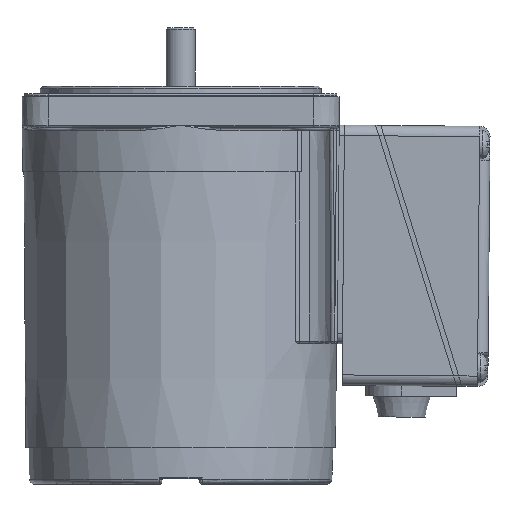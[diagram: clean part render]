
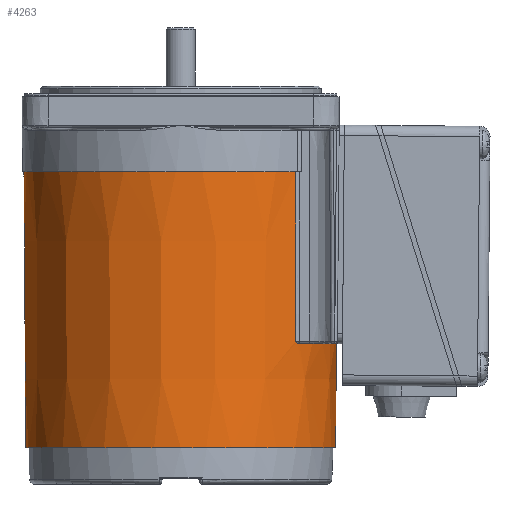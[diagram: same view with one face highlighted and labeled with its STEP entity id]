
A CAD part, left-side view. The second image highlights one B-rep face of the part: STEP entity #4263.
In plain terms, the highlighted conical face has half-angle 0.318 degrees and reference radius 30.123 mm.
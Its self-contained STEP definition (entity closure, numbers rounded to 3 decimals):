
#221 = CARTESIAN_POINT ( 'NONE',  ( -3.809, -29.707, -47.5 ) ) ;
#449 = CARTESIAN_POINT ( 'NONE',  ( 20.431, -22.08, -21.833 ) ) ;
#463 = VERTEX_POINT ( 'NONE', #5981 ) ;
#480 = DIRECTION ( 'NONE',  ( 1., 0., 0. ) ) ;
#510 = CARTESIAN_POINT ( 'NONE',  ( -20.229, -22.088, -45.5 ) ) ;
#667 = ORIENTED_EDGE ( 'NONE', *, *, #1603, .T. ) ;
#681 = B_SPLINE_CURVE_WITH_KNOTS ( 'NONE', 3,
 ( #4382, #9813, #2379, #11088, #3377, #12153, #10018, #10959, #221, #4598 ),
 .UNSPECIFIED., .F., .F.,
 ( 4, 2, 2, 2, 4 ),
 ( 0., 0.002, 0.005, 0.007, 0.009 ),
 .UNSPECIFIED. ) ;
#833 = CIRCLE ( 'NONE', #2917, 29.94 ) ;
#882 = CARTESIAN_POINT ( 'NONE',  ( 19.391, -22.812, -47.5 ) ) ;
#937 = CARTESIAN_POINT ( 'NONE',  ( -20.224, -22.088, -46.001 ) ) ;
#1064 = VERTEX_POINT ( 'NONE', #8473 ) ;
#1180 = ORIENTED_EDGE ( 'NONE', *, *, #2137, .T. ) ;
#1206 = VERTEX_POINT ( 'NONE', #2220 ) ;
#1209 = ORIENTED_EDGE ( 'NONE', *, *, #3968, .T. ) ;
#1382 = EDGE_CURVE ( 'NONE', #7631, #3356, #4838, .T. ) ;
#1434 = CARTESIAN_POINT ( 'NONE',  ( 20.28, -22.086, -39.502 ) ) ;
#1505 = CARTESIAN_POINT ( 'NONE',  ( 20.477, -22.078, -16.5 ) ) ;
#1603 = EDGE_CURVE ( 'NONE', #10968, #7631, #6484, .T. ) ;
#1658 = ORIENTED_EDGE ( 'NONE', *, *, #10895, .F. ) ;
#1666 = DIRECTION ( 'NONE',  ( -1., 0., 0. ) ) ;
#1851 = CARTESIAN_POINT ( 'NONE',  ( -19.391, -22.812, -47.5 ) ) ;
#1985 = CARTESIAN_POINT ( 'NONE',  ( -20.093, -22.2, -47.122 ) ) ;
#2137 = EDGE_CURVE ( 'NONE', #3356, #9953, #5992, .T. ) ;
#2220 = CARTESIAN_POINT ( 'NONE',  ( -29.829, 0., -67.5 ) ) ;
#2379 = CARTESIAN_POINT ( 'NONE',  ( 3.05, -29.794, -47.461 ) ) ;
#2383 = CARTESIAN_POINT ( 'NONE',  ( -20.22, -22.088, -46.502 ) ) ;
#2427 = CARTESIAN_POINT ( 'NONE',  ( 0., 0., -14.5 ) ) ;
#2561 = FACE_BOUND ( 'NONE', #3199, .T. ) ;
#2588 = DIRECTION ( 'NONE',  ( -1., 0., 0. ) ) ;
#2599 = CARTESIAN_POINT ( 'NONE',  ( 20.483, -22.078, -15.833 ) ) ;
#2744 = CARTESIAN_POINT ( 'NONE',  ( -20.251, -22.087, -42.834 ) ) ;
#2897 = CARTESIAN_POINT ( 'NONE',  ( 0., 0., -47.5 ) ) ;
#2917 = AXIS2_PLACEMENT_3D ( 'NONE', #2897, #11466, #4038 ) ;
#3033 = CARTESIAN_POINT ( 'NONE',  ( 20.216, -22.088, -47.003 ) ) ;
#3199 = EDGE_LOOP ( 'NONE', ( #1658 ) ) ;
#3356 = VERTEX_POINT ( 'NONE', #3033 ) ;
#3377 = CARTESIAN_POINT ( 'NONE',  ( 0.766, -29.941, -47.356 ) ) ;
#3505 = EDGE_CURVE ( 'NONE', #6732, #463, #681, .T. ) ;
#3661 = CARTESIAN_POINT ( 'NONE',  ( -20.494, -22.077, -14.5 ) ) ;
#3727 = ORIENTED_EDGE ( 'NONE', *, *, #13357, .T. ) ;
#3757 = AXIS2_PLACEMENT_3D ( 'NONE', #2427, #7781, #5562 ) ;
#3968 = EDGE_CURVE ( 'NONE', #5124, #1064, #9034, .T. ) ;
#4038 = DIRECTION ( 'NONE',  ( -1., 0., 0. ) ) ;
#4263 = ADVANCED_FACE ( 'NONE', ( #2561, #11418 ), #11785, .T. ) ;
#4280 = ORIENTED_EDGE ( 'NONE', *, *, #3505, .T. ) ;
#4382 = CARTESIAN_POINT ( 'NONE',  ( 4.567, -29.59, -47.5 ) ) ;
#4598 = CARTESIAN_POINT ( 'NONE',  ( -4.567, -29.59, -47.5 ) ) ;
#4665 = CARTESIAN_POINT ( 'NONE',  ( -20.297, -22.085, -37.5 ) ) ;
#4825 = CARTESIAN_POINT ( 'NONE',  ( 20.409, -22.081, -24.5 ) ) ;
#4829 = EDGE_CURVE ( 'NONE', #9953, #6732, #833, .T. ) ;
#4838 = B_SPLINE_CURVE_WITH_KNOTS ( 'NONE', 3,
 ( #12369, #12299, #2599, #1505, #13295, #449, #4825, #9175, #1434, #9437 ),
 .UNSPECIFIED., .F., .F.,
 ( 4, 3, 3, 4 ),
 ( 0., 0.002, 0.01, 0.033 ),
 .UNSPECIFIED. ) ;
#5124 = VERTEX_POINT ( 'NONE', #5842 ) ;
#5562 = DIRECTION ( 'NONE',  ( -1., 0., 0. ) ) ;
#5842 = CARTESIAN_POINT ( 'NONE',  ( -19.391, -22.812, -47.5 ) ) ;
#5858 = CARTESIAN_POINT ( 'NONE',  ( 0., 0., -67.5 ) ) ;
#5981 = CARTESIAN_POINT ( 'NONE',  ( -4.567, -29.59, -47.5 ) ) ;
#5992 = B_SPLINE_CURVE_WITH_KNOTS ( 'NONE', 3,
 ( #12871, #9476, #11680, #11889, #10690, #882 ),
 .UNSPECIFIED., .F., .F.,
 ( 4, 2, 4 ),
 ( 0., 0.001, 0.001 ),
 .UNSPECIFIED. ) ;
#6270 = EDGE_LOOP ( 'NONE', ( #13552, #1180, #8072, #4280, #13598, #1209, #3727, #667 ) ) ;
#6484 = CIRCLE ( 'NONE', #3757, 30.123 ) ;
#6692 = CARTESIAN_POINT ( 'NONE',  ( 20.494, -22.077, -14.5 ) ) ;
#6732 = VERTEX_POINT ( 'NONE', #11968 ) ;
#6842 = DIRECTION ( 'NONE',  ( 0., 0., 1. ) ) ;
#7631 = VERTEX_POINT ( 'NONE', #6692 ) ;
#7781 = DIRECTION ( 'NONE',  ( 0., 0., -1. ) ) ;
#8072 = ORIENTED_EDGE ( 'NONE', *, *, #4829, .T. ) ;
#8425 = CARTESIAN_POINT ( 'NONE',  ( -19.699, -22.548, -47.429 ) ) ;
#8473 = CARTESIAN_POINT ( 'NONE',  ( -20.216, -22.088, -47.003 ) ) ;
#8639 = CIRCLE ( 'NONE', #13413, 29.94 ) ;
#9034 = B_SPLINE_CURVE_WITH_KNOTS ( 'NONE', 3,
 ( #1851, #10785, #8425, #13696, #1985, #12692 ),
 .UNSPECIFIED., .F., .F.,
 ( 4, 2, 4 ),
 ( 0., 0.001, 0.001 ),
 .UNSPECIFIED. ) ;
#9167 = CARTESIAN_POINT ( 'NONE',  ( -20.363, -22.083, -29.834 ) ) ;
#9175 = CARTESIAN_POINT ( 'NONE',  ( 20.344, -22.084, -32.001 ) ) ;
#9229 = DIRECTION ( 'NONE',  ( 0., 0., -1. ) ) ;
#9437 = CARTESIAN_POINT ( 'NONE',  ( 20.216, -22.088, -47.003 ) ) ;
#9476 = CARTESIAN_POINT ( 'NONE',  ( 20.093, -22.2, -47.122 ) ) ;
#9813 = CARTESIAN_POINT ( 'NONE',  ( 3.81, -29.707, -47.5 ) ) ;
#9953 = VERTEX_POINT ( 'NONE', #12226 ) ;
#10018 = CARTESIAN_POINT ( 'NONE',  ( -1.529, -29.911, -47.389 ) ) ;
#10542 = CARTESIAN_POINT ( 'NONE',  ( 0., 0., -47.5 ) ) ;
#10690 = CARTESIAN_POINT ( 'NONE',  ( 19.549, -22.678, -47.5 ) ) ;
#10785 = CARTESIAN_POINT ( 'NONE',  ( -19.549, -22.678, -47.5 ) ) ;
#10895 = EDGE_CURVE ( 'NONE', #1206, #1206, #13195, .T. ) ;
#10959 = CARTESIAN_POINT ( 'NONE',  ( -3.051, -29.794, -47.461 ) ) ;
#10968 = VERTEX_POINT ( 'NONE', #3661 ) ;
#11088 = CARTESIAN_POINT ( 'NONE',  ( 1.529, -29.911, -47.389 ) ) ;
#11093 = CARTESIAN_POINT ( 'NONE',  ( -20.274, -22.086, -40.167 ) ) ;
#11115 = AXIS2_PLACEMENT_3D ( 'NONE', #12253, #6842, #480 ) ;
#11418 = FACE_OUTER_BOUND ( 'NONE', #6270, .T. ) ;
#11463 = DIRECTION ( 'NONE',  ( 0., 0., -1. ) ) ;
#11466 = DIRECTION ( 'NONE',  ( 0., 0., -1. ) ) ;
#11680 = CARTESIAN_POINT ( 'NONE',  ( 19.969, -22.311, -47.241 ) ) ;
#11785 = CONICAL_SURFACE ( 'NONE', #11115, 30.123, 0.006 ) ;
#11889 = CARTESIAN_POINT ( 'NONE',  ( 19.699, -22.548, -47.429 ) ) ;
#11968 = CARTESIAN_POINT ( 'NONE',  ( 4.567, -29.59, -47.5 ) ) ;
#12067 = EDGE_CURVE ( 'NONE', #463, #5124, #8639, .T. ) ;
#12153 = CARTESIAN_POINT ( 'NONE',  ( -0.764, -29.941, -47.356 ) ) ;
#12155 = CARTESIAN_POINT ( 'NONE',  ( -20.216, -22.088, -47.003 ) ) ;
#12226 = CARTESIAN_POINT ( 'NONE',  ( 19.391, -22.812, -47.5 ) ) ;
#12253 = CARTESIAN_POINT ( 'NONE',  ( 0., 0., -14.5 ) ) ;
#12299 = CARTESIAN_POINT ( 'NONE',  ( 20.489, -22.078, -15.167 ) ) ;
#12360 = CARTESIAN_POINT ( 'NONE',  ( -20.494, -22.077, -14.5 ) ) ;
#12369 = CARTESIAN_POINT ( 'NONE',  ( 20.494, -22.077, -14.5 ) ) ;
#12429 = CARTESIAN_POINT ( 'NONE',  ( -20.429, -22.08, -22.167 ) ) ;
#12641 = B_SPLINE_CURVE_WITH_KNOTS ( 'NONE', 3,
 ( #12155, #2383, #937, #510, #2744, #11093, #4665, #9167, #12429, #12360 ),
 .UNSPECIFIED., .F., .F.,
 ( 4, 3, 3, 4 ),
 ( 0., 0.002, 0.01, 0.033 ),
 .UNSPECIFIED. ) ;
#12692 = CARTESIAN_POINT ( 'NONE',  ( -20.216, -22.088, -47.003 ) ) ;
#12871 = CARTESIAN_POINT ( 'NONE',  ( 20.216, -22.088, -47.003 ) ) ;
#12967 = AXIS2_PLACEMENT_3D ( 'NONE', #5858, #9229, #2588 ) ;
#13195 = CIRCLE ( 'NONE', #12967, 29.829 ) ;
#13295 = CARTESIAN_POINT ( 'NONE',  ( 20.454, -22.079, -19.166 ) ) ;
#13357 = EDGE_CURVE ( 'NONE', #1064, #10968, #12641, .T. ) ;
#13413 = AXIS2_PLACEMENT_3D ( 'NONE', #10542, #11463, #1666 ) ;
#13552 = ORIENTED_EDGE ( 'NONE', *, *, #1382, .T. ) ;
#13598 = ORIENTED_EDGE ( 'NONE', *, *, #12067, .T. ) ;
#13696 = CARTESIAN_POINT ( 'NONE',  ( -19.969, -22.311, -47.241 ) ) ;
